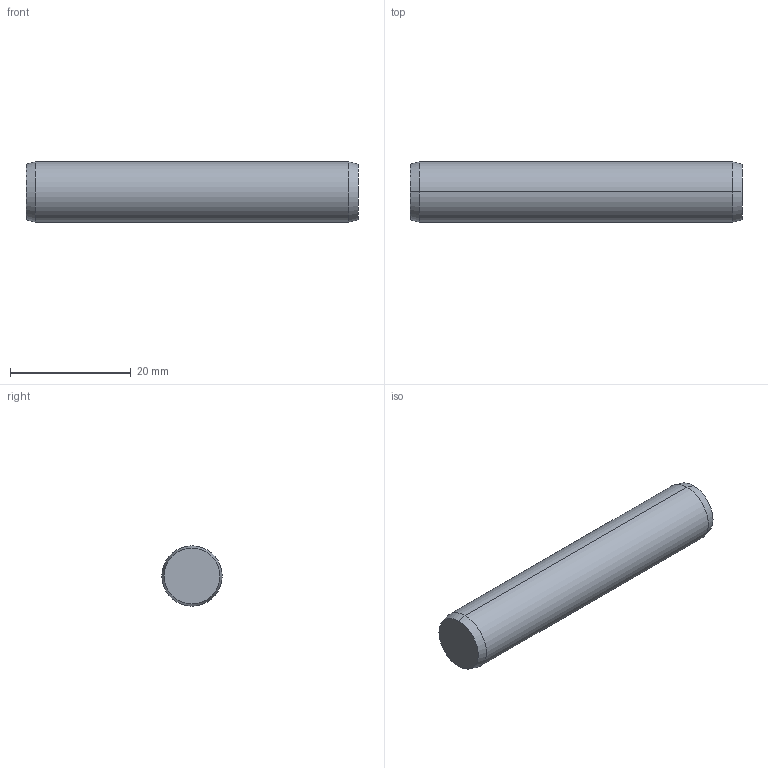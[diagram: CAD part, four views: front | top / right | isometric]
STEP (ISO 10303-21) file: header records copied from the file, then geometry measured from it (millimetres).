
FILE_DESCRIPTION (( 'STEP AP203' ), '1' );
FILE_NAME ('P1206.100-055.step', '2017-06-14T08:33:41', ( 'User' ), ( '' ), 'SwSTEP 2.0', 'SolidWorks 2009', '' );
FILE_SCHEMA (( 'CONFIG_CONTROL_DESIGN' ));
Length unit declared in the file: millimetre
Products named in the file (1): P1206.100-055
Bounding box: 55 x 10 x 10 mm (x, y, z)
Volume: 4301.3 mm3; surface area: 1860.1 mm2
Topology: 1 solids, 1 shells, 8 faces, 14 edges, 8 vertices
Faces by surface type: cone 4, cylinder 2, plane 2
Entity records: 271 total; most frequent: DIRECTION 40, CARTESIAN_POINT 31, ORIENTED_EDGE 28, AXIS2_PLACEMENT_3D 17, EDGE_CURVE 14, EDGE_LOOP 8, VERTEX_POINT 8, ADVANCED_FACE 8
